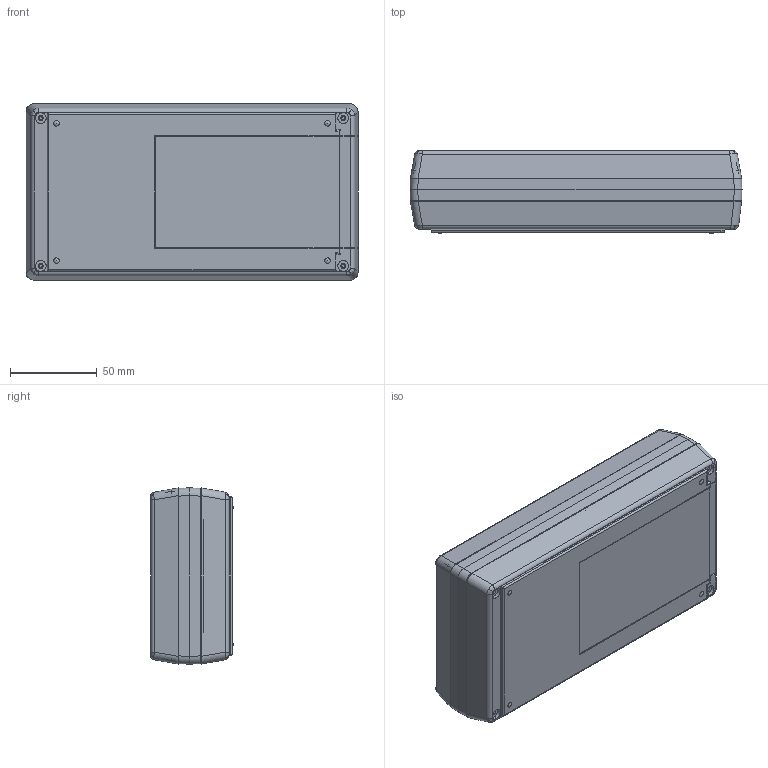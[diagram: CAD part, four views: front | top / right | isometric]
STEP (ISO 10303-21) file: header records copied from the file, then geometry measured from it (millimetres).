
FILE_DESCRIPTION (( 'STEP AP214' ), '1' );
FILE_NAME ('101-42-NO-E-R.STEP', '2019-12-01T01:00:07', ( 'Rudy' ), ( '' ), 'SwSTEP 2.0', 'SolidWorks 2014', '' );
FILE_SCHEMA (( 'AUTOMOTIVE_DESIGN' ));
Length unit declared in the file: millimetre
Products named in the file (4): 100-06 EXPANDER; 100-04-LCD Top; 100-02 BOT-NO BAT; 101-42-NO-E-R
Assembly tree (3 placements, depth 2):
  101-42-NO-E-R
    100-02 BOT-NO BAT
    100-04-LCD Top
    100-06 EXPANDER
Bounding box: 191 x 47.62 x 101.4 mm (x, y, z)
Volume: 137557.1 mm3; surface area: 135591.9 mm2
Topology: 3 solids, 3 shells, 625 faces, 1620 edges, 1006 vertices
Faces by surface type: plane 300, cylinder 227, cone 50, bspline 44, sphere 4
Entity records: 20609 total; most frequent: CARTESIAN_POINT 6120, ORIENTED_EDGE 3168, DIRECTION 2748, EDGE_CURVE 1584, VERTEX_POINT 998, LINE 930, VECTOR 930, AXIS2_PLACEMENT_3D 909
